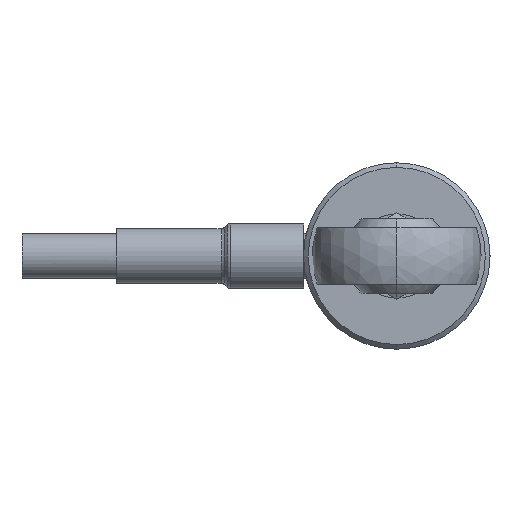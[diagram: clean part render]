
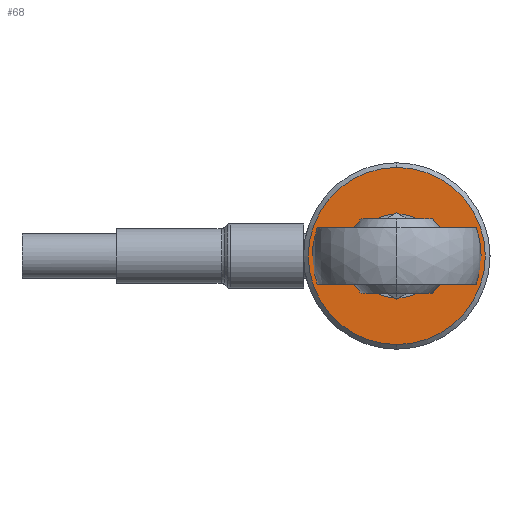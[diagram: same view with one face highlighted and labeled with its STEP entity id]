
A CAD part, left-side view. The second image highlights one B-rep face of the part: STEP entity #68.
In plain terms, the highlighted planar face has unit normal (-1, 0, 0).
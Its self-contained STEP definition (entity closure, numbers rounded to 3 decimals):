
#68 = ADVANCED_FACE ( 'NONE', ( #3737, #450 ), #2651, .F. ) ;
#88 = CARTESIAN_POINT ( 'NONE',  ( 0., 0., -4.5 ) ) ;
#184 = DIRECTION ( 'NONE',  ( 0., 0., -1. ) ) ;
#261 = CIRCLE ( 'NONE', #779, 4.5 ) ;
#345 = DIRECTION ( 'NONE',  ( 0., 0., -1. ) ) ;
#360 = DIRECTION ( 'NONE',  ( 1., 0., 0. ) ) ;
#450 = FACE_OUTER_BOUND ( 'NONE', #3038, .T. ) ;
#533 = CIRCLE ( 'NONE', #2633, 4.5 ) ;
#578 = CARTESIAN_POINT ( 'NONE',  ( 0., 0., 0. ) ) ;
#613 = CARTESIAN_POINT ( 'NONE',  ( 0., 0., 0. ) ) ;
#745 = AXIS2_PLACEMENT_3D ( 'NONE', #3685, #1718, #1698 ) ;
#779 = AXIS2_PLACEMENT_3D ( 'NONE', #578, #4209, #3219 ) ;
#800 = VERTEX_POINT ( 'NONE', #88 ) ;
#1063 = EDGE_LOOP ( 'NONE', ( #1545, #3022 ) ) ;
#1298 = AXIS2_PLACEMENT_3D ( 'NONE', #3621, #360, #345 ) ;
#1545 = ORIENTED_EDGE ( 'NONE', *, *, #3830, .F. ) ;
#1604 = DIRECTION ( 'NONE',  ( -1., 0., 0. ) ) ;
#1698 = DIRECTION ( 'NONE',  ( 0., 0., -1. ) ) ;
#1718 = DIRECTION ( 'NONE',  ( -1., 0., 0. ) ) ;
#1849 = ORIENTED_EDGE ( 'NONE', *, *, #3311, .T. ) ;
#1866 = CARTESIAN_POINT ( 'NONE',  ( 0., 0., 0. ) ) ;
#2001 = ORIENTED_EDGE ( 'NONE', *, *, #2691, .T. ) ;
#2171 = DIRECTION ( 'NONE',  ( -1., 0., 0. ) ) ;
#2422 = VERTEX_POINT ( 'NONE', #3842 ) ;
#2622 = CIRCLE ( 'NONE', #3634, 9.45 ) ;
#2633 = AXIS2_PLACEMENT_3D ( 'NONE', #1866, #2171, #184 ) ;
#2651 = PLANE ( 'NONE',  #1298 ) ;
#2691 = EDGE_CURVE ( 'NONE', #3300, #3743, #2849, .T. ) ;
#2849 = CIRCLE ( 'NONE', #745, 9.45 ) ;
#2908 = DIRECTION ( 'NONE',  ( 0., 0., -1. ) ) ;
#2940 = EDGE_CURVE ( 'NONE', #2422, #800, #533, .T. ) ;
#3022 = ORIENTED_EDGE ( 'NONE', *, *, #2940, .F. ) ;
#3038 = EDGE_LOOP ( 'NONE', ( #2001, #1849 ) ) ;
#3219 = DIRECTION ( 'NONE',  ( 0., 0., -1. ) ) ;
#3300 = VERTEX_POINT ( 'NONE', #3865 ) ;
#3311 = EDGE_CURVE ( 'NONE', #3743, #3300, #2622, .T. ) ;
#3468 = CARTESIAN_POINT ( 'NONE',  ( 0., 0., 9.45 ) ) ;
#3621 = CARTESIAN_POINT ( 'NONE',  ( 0., 0., 0. ) ) ;
#3634 = AXIS2_PLACEMENT_3D ( 'NONE', #613, #1604, #2908 ) ;
#3685 = CARTESIAN_POINT ( 'NONE',  ( 0., 0., 0. ) ) ;
#3737 = FACE_BOUND ( 'NONE', #1063, .T. ) ;
#3743 = VERTEX_POINT ( 'NONE', #3468 ) ;
#3830 = EDGE_CURVE ( 'NONE', #800, #2422, #261, .T. ) ;
#3842 = CARTESIAN_POINT ( 'NONE',  ( 0., 0., 4.5 ) ) ;
#3865 = CARTESIAN_POINT ( 'NONE',  ( 0., 0., -9.45 ) ) ;
#4209 = DIRECTION ( 'NONE',  ( -1., 0., 0. ) ) ;
